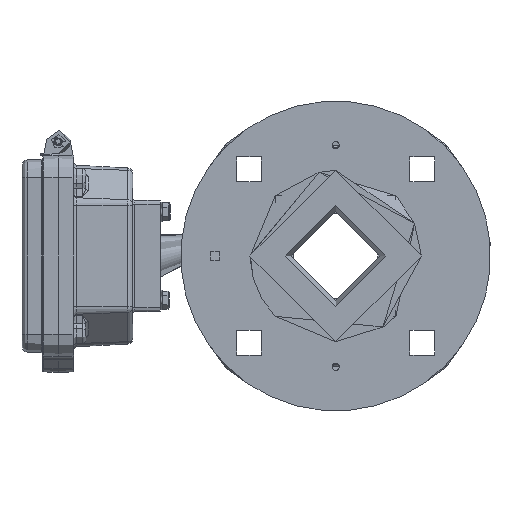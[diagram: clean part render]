
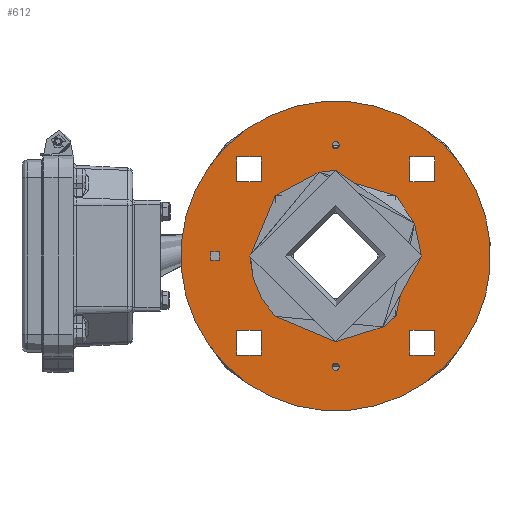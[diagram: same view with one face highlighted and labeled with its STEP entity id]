
A CAD part, left-side view. The second image highlights one B-rep face of the part: STEP entity #612.
In plain terms, the highlighted planar face has unit normal (-1, 0, 0).
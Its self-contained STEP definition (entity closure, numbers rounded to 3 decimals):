
#612=ADVANCED_FACE('',(#16231,#16233,#16235,#16237,#16239,#16241,#16243,#16245,#16247),
#16249,.T.);
#16231=FACE_BOUND('',#16232,.T.);
#16232=EDGE_LOOP('',(#30243));
#16233=FACE_BOUND('',#16234,.T.);
#16234=EDGE_LOOP('',(#30244));
#16235=FACE_BOUND('',#16236,.T.);
#16236=EDGE_LOOP('',(#30245));
#16237=FACE_BOUND('',#16238,.T.);
#16238=EDGE_LOOP('',(#30246));
#16239=FACE_BOUND('',#16240,.T.);
#16240=EDGE_LOOP('',(#30247));
#16241=FACE_BOUND('',#16242,.T.);
#16242=EDGE_LOOP('',(#30248));
#16243=FACE_BOUND('',#16244,.T.);
#16244=EDGE_LOOP('',(#30249));
#16245=FACE_BOUND('',#16246,.T.);
#16246=EDGE_LOOP('',(#30250));
#16247=FACE_BOUND('',#16248,.T.);
#16248=EDGE_LOOP('',(#30251));
#16249=PLANE('',#16250);
#16250=AXIS2_PLACEMENT_3D('',#16251,#16252,#16253);
#16251=CARTESIAN_POINT('',(-91.,-24.173,0.));
#16252=DIRECTION('',(-1.,0.,0.));
#16253=DIRECTION('',(0.,0.707,-0.707));
#30243=ORIENTED_EDGE('',*,*,#36551,.T.);
#30244=ORIENTED_EDGE('',*,*,#36552,.T.);
#30245=ORIENTED_EDGE('',*,*,#36534,.T.);
#30246=ORIENTED_EDGE('',*,*,#36535,.T.);
#30247=ORIENTED_EDGE('',*,*,#36536,.T.);
#30248=ORIENTED_EDGE('',*,*,#36553,.F.);
#30249=ORIENTED_EDGE('',*,*,#36537,.T.);
#30250=ORIENTED_EDGE('',*,*,#36554,.T.);
#30251=ORIENTED_EDGE('',*,*,#36539,.T.);
#36534=EDGE_CURVE('',#39887,#39887,#39888,.T.);
#36535=EDGE_CURVE('',#39889,#39889,#39890,.T.);
#36536=EDGE_CURVE('',#39891,#39891,#39892,.T.);
#36537=EDGE_CURVE('',#39893,#39893,#39894,.T.);
#36539=EDGE_CURVE('',#39897,#39897,#39898,.F.);
#36551=EDGE_CURVE('',#39921,#39921,#39922,.T.);
#36552=EDGE_CURVE('',#39923,#39923,#39924,.F.);
#36553=EDGE_CURVE('',#39925,#39925,#39926,.T.);
#36554=EDGE_CURVE('',#39927,#39927,#39928,.F.);
#39887=VERTEX_POINT('',#44938);
#39888=CIRCLE('',#44939,9.);
#39889=VERTEX_POINT('',#44943);
#39890=CIRCLE('',#44944,9.);
#39891=VERTEX_POINT('',#44948);
#39892=CIRCLE('',#44949,9.);
#39893=VERTEX_POINT('',#44953);
#39894=CIRCLE('',#44954,9.);
#39897=VERTEX_POINT('',#45091);
#39898=CIRCLE('',#45092,3.15);
#39921=VERTEX_POINT('',#45315);
#39922=CIRCLE('',#45316,79.);
#39923=VERTEX_POINT('',#45320);
#39924=CIRCLE('',#45321,1.85);
#39925=VERTEX_POINT('',#45325);
#39926=CIRCLE('',#45326,43.5);
#39927=VERTEX_POINT('',#45330);
#39928=CIRCLE('',#45331,1.85);
#44938=CARTESIAN_POINT('',(-91.,26.386,37.83));
#44939=AXIS2_PLACEMENT_3D('',#44940,#44941,#44942);
#44940=CARTESIAN_POINT('',(-91.,20.022,44.194));
#44941=DIRECTION('',(1.,0.,0.));
#44942=DIRECTION('',(0.,0.707,-0.707));
#44943=CARTESIAN_POINT('',(-91.,-62.003,50.558));
#44944=AXIS2_PLACEMENT_3D('',#44945,#44946,#44947);
#44945=CARTESIAN_POINT('',(-91.,-68.367,44.194));
#44946=DIRECTION('',(1.,0.,0.));
#44947=DIRECTION('',(0.,0.707,0.707));
#44948=CARTESIAN_POINT('',(-91.,-74.731,-37.83));
#44949=AXIS2_PLACEMENT_3D('',#44950,#44951,#44952);
#44950=CARTESIAN_POINT('',(-91.,-68.367,-44.194));
#44951=DIRECTION('',(1.,0.,0.));
#44952=DIRECTION('',(0.,-0.707,0.707));
#44953=CARTESIAN_POINT('',(-91.,13.658,-50.558));
#44954=AXIS2_PLACEMENT_3D('',#44955,#44956,#44957);
#44955=CARTESIAN_POINT('',(-91.,20.022,-44.194));
#44956=DIRECTION('',(1.,0.,0.));
#44957=DIRECTION('',(0.,-0.707,-0.707));
#45091=CARTESIAN_POINT('',(-91.,35.1,-2.227));
#45092=AXIS2_PLACEMENT_3D('',#45093,#45094,#45095);
#45093=CARTESIAN_POINT('',(-91.,37.327,0.));
#45094=DIRECTION('',(-1.,0.,0.));
#45095=DIRECTION('',(0.,-0.707,-0.707));
#45315=CARTESIAN_POINT('',(-91.,31.689,-55.861));
#45316=AXIS2_PLACEMENT_3D('',#45317,#45318,#45319);
#45317=CARTESIAN_POINT('',(-91.,-24.173,0.));
#45318=DIRECTION('',(-1.,0.,0.));
#45319=DIRECTION('',(0.,0.707,-0.707));
#45320=CARTESIAN_POINT('',(-91.,-22.864,-55.192));
#45321=AXIS2_PLACEMENT_3D('',#45322,#45323,#45324);
#45322=CARTESIAN_POINT('',(-91.,-24.173,-56.5));
#45323=DIRECTION('',(-1.,0.,0.));
#45324=DIRECTION('',(0.,0.707,0.707));
#45325=CARTESIAN_POINT('',(-91.,6.587,-30.759));
#45326=AXIS2_PLACEMENT_3D('',#45327,#45328,#45329);
#45327=CARTESIAN_POINT('',(-91.,-24.173,0.));
#45328=DIRECTION('',(-1.,0.,0.));
#45329=DIRECTION('',(0.,0.707,-0.707));
#45330=CARTESIAN_POINT('',(-91.,-25.481,55.192));
#45331=AXIS2_PLACEMENT_3D('',#45332,#45333,#45334);
#45332=CARTESIAN_POINT('',(-91.,-24.173,56.5));
#45333=DIRECTION('',(-1.,0.,0.));
#45334=DIRECTION('',(0.,-0.707,-0.707));
